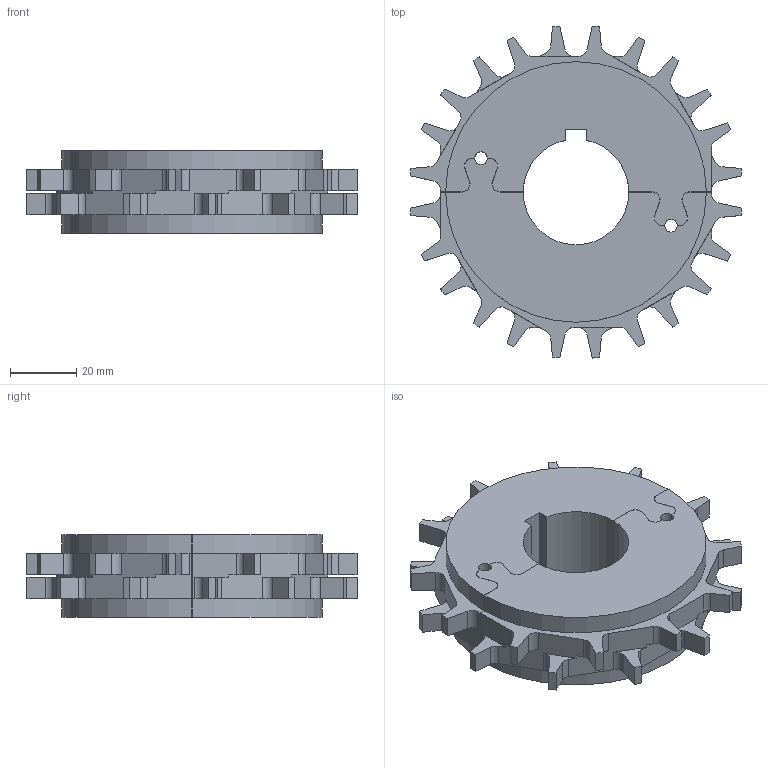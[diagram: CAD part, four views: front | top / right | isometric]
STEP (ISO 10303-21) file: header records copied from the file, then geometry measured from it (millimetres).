
FILE_DESCRIPTION((''),'2;1');
FILE_NAME('S2400_SPLIT_39X1-1_4_RND_ASM','2012-07-05T',('rklein'),('INTRALOX'),'PRO/ENGINEER BY PARAMETRIC TECHNOLOGY CORPORATION, 2009460','PRO/ENGINEER BY PARAMETRIC TECHNOLOGY CORPORATION, 2009460','');
FILE_SCHEMA(('CONFIG_CONTROL_DESIGN'));
Length unit declared in the file: inch
Products named in the file (3): S2400_SPLIT_39X1-1_4_RND_AF0; S2400_SPLIT_39X1-1_4_RND_AF1; S2400_SPLIT_39X1-1_4_RND_ASM
Assembly tree (2 placements, depth 2):
  S2400_SPLIT_39X1-1_4_RND_ASM
    S2400_SPLIT_39X1-1_4_RND_AF0
    S2400_SPLIT_39X1-1_4_RND_AF1
Bounding box: 99.85 x 99.85 x 24.89 mm (x, y, z)
Volume: 111931.2 mm3; surface area: 26425.4 mm2
Topology: 2 solids, 2 shells, 220 faces, 648 edges, 432 vertices
Faces by surface type: plane 121, cylinder 99
Entity records: 7464 total; most frequent: CARTESIAN_POINT 1305, DIRECTION 1296, ORIENTED_EDGE 1296, EDGE_CURVE 648, VECTOR 450, LINE 450, VERTEX_POINT 432, AXIS2_PLACEMENT_3D 423
